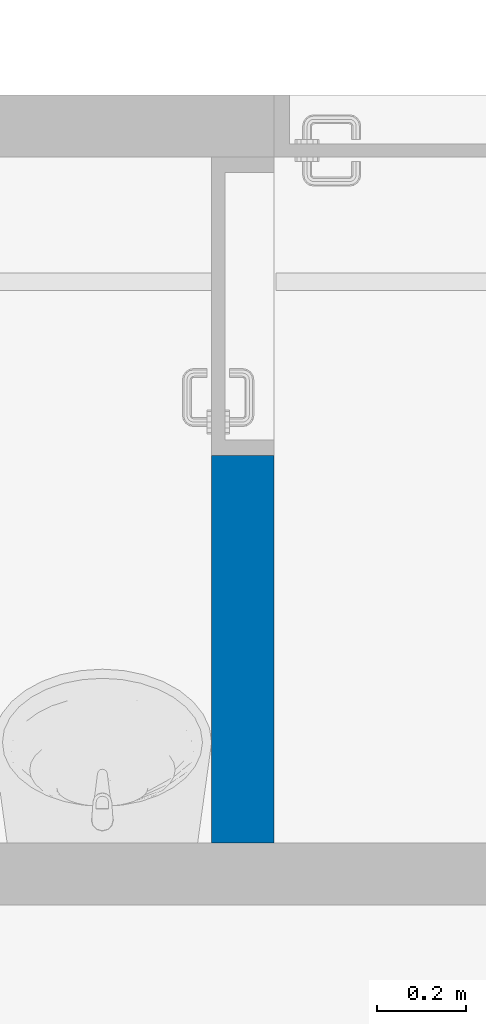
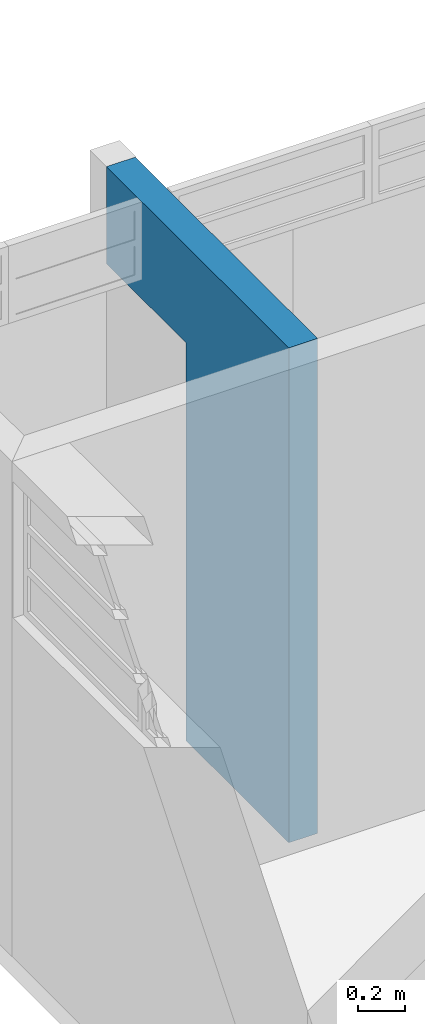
# One storey, part 5 of 16: 1 wall, 1 opening.
"""IFC2X3 building model written with IfcOpenShell, lengths in millimetres."""

from ifc_helpers import new_model, entity, si_unit, converted_unit, derived_unit, money_unit, direction, frame, origin_with_axes, origin_2d_with_axis, place, context, subcontext, project, spatial, polyline, rectangle, outline, extrude, material, layer, layer_set, layer_usage, type_object, element, save


model = new_model("IFC2X3")

# Units and contexts
model_context = context("Model", 3, precision=0.01, world=origin_with_axes(), true_north=direction((0.293984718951, 0.955810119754)))
body_context = subcontext(model_context, "Body", "Model", "MODEL_VIEW")
ifc_project = project(units=[si_unit("LENGTHUNIT", "METRE", prefix="MILLI"), si_unit("AREAUNIT", "SQUARE_METRE"), si_unit("VOLUMEUNIT", "CUBIC_METRE"), converted_unit("PLANEANGLEUNIT", "DEGREE", entity("IfcPlaneAngleMeasure", 0.0174532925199), si_unit("PLANEANGLEUNIT", "RADIAN"), dimensions=[0, 0, 0, 0, 0, 0, 0]), si_unit("SOLIDANGLEUNIT", "STERADIAN"), money_unit("USD"), converted_unit("TIMEUNIT", "Year", entity("IfcTimeMeasure", 31556926.0), si_unit("TIMEUNIT", "SECOND"), dimensions=[0, 0, 1, 0, 0, 0, 0]), si_unit("MASSUNIT", "GRAM", prefix="KILO"), si_unit("THERMODYNAMICTEMPERATUREUNIT", "DEGREE_CELSIUS"), si_unit("LUMINOUSINTENSITYUNIT", "LUMEN"), si_unit("ENERGYUNIT", "JOULE", prefix="MEGA"), derived_unit("THERMALCONDUCTANCEUNIT", [(si_unit("POWERUNIT", "WATT"), 1), (si_unit("LENGTHUNIT", "METRE"), -1), (si_unit("THERMODYNAMICTEMPERATUREUNIT", "KELVIN"), -1)]), derived_unit("SPECIFICHEATCAPACITYUNIT", [(si_unit("ENERGYUNIT", "JOULE"), 1), (si_unit("MASSUNIT", "GRAM", prefix="KILO"), -1), (si_unit("THERMODYNAMICTEMPERATUREUNIT", "KELVIN"), -1)]), derived_unit("MASSDENSITYUNIT", [(si_unit("MASSUNIT", "GRAM", prefix="KILO"), 1), (si_unit("VOLUMEUNIT", "CUBIC_METRE"), -1)])], contexts=[model_context])

# Site, building, storey
site_placement = place(None, origin_with_axes())
site = spatial("IfcSite", under=ifc_project, at=site_placement, Name="Local", CompositionType="ELEMENT")
building_placement = place(site_placement, origin_with_axes())
building = spatial("IfcBuilding", under=site, at=building_placement, Name="Construção", CompositionType="ELEMENT")
storey_placement = place(building_placement, origin_with_axes())
storey = spatial("IfcBuildingStorey", under=building, at=storey_placement, Name="Pavimento Térreo", CompositionType="ELEMENT", Elevation=0.0)

# Wall, opening
ifc_material_1 = material(Name="Reboco (1)")
ifc_layer_1 = layer(ifc_material_1, 20.0, ventilated="UNKNOWN")
ifc_material_2 = material(Name="Tijolo - Estrutural (1)")
ifc_layer_2 = layer(ifc_material_2, 100.0, ventilated="UNKNOWN")
ifc_layer_3 = layer(ifc_material_1, 20.0, ventilated="UNKNOWN")
ifc_layer_set = layer_set([ifc_layer_1, ifc_layer_2, ifc_layer_3], Name="Alvenaria Tijolo Maciço com Revestimento 14cm")
ifc_layer_usage = layer_usage(ifc_layer_set, "AXIS2", "NEGATIVE", 70.0)
wall_type = type_object("IfcWallType", Name="Alvenaria Tijolo Maciço com Revestimento 14cm 140", PredefinedType="NOTDEFINED")
wall_placement = place(storey_placement, frame((8579.64507267, 12800.6321979, 50.0), z_axis=(0.0, 0.0, 1.0), x_axis=(0.0, -1.0, 0.0)))
wall = element("IfcWallStandardCase", 1, at=wall_placement, inside=storey, type_object=wall_type, material=ifc_layer_usage, Name="Parede", context=body_context, shape_type="SweptSolid", body=[
    extrude(outline(polyline([(140.0, -70.0), (1680.0, -70.0), (1680.0, 70.0), (140.0, 70.0), (140.0, -70.0)])), origin_with_axes(), (0.0, 0.0, 1.0), 2550.0),
])
opening_placement = place(wall_placement, frame((475.0, 0.0, -50.0), z_axis=(0.0, 0.0, 1.0), x_axis=(1.0, 0.0, 0.0)))
element("IfcOpeningElement", 2, at=opening_placement, cuts=wall, Name="P01", context=body_context, shape_type="SweptSolid", body=[
    extrude(rectangle(XDim=670.0, YDim=2100.0, at=origin_2d_with_axis()), frame((0.0, 140.0, 1050.0), z_axis=(0.0, -1.0, 0.0), x_axis=(-1.0, 0.0, 0.0)), (0.0, 0.0, 1.0), 420.0),
])

save(model, "model.ifc")
